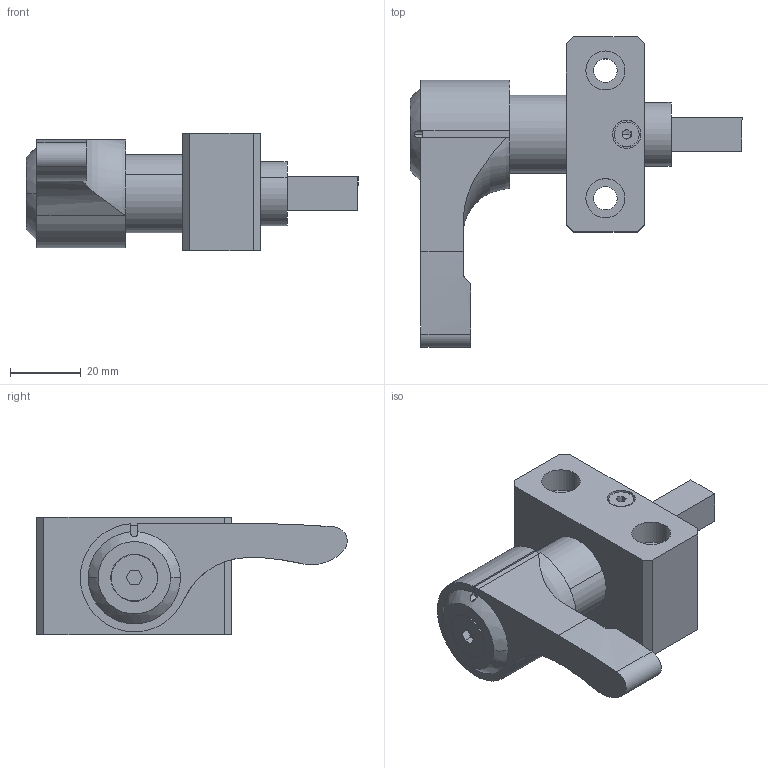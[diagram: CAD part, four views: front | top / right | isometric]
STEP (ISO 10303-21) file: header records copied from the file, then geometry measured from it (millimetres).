
FILE_DESCRIPTION (( 'STEP AP203' ), '1' );
FILE_NAME ('QLPDW85-RC.STEP', '2024-11-08T06:27:50', ( '' ), ( '' ), 'SwSTEP 2.0', 'SolidWorks 2023', '' );
FILE_SCHEMA (( 'CONFIG_CONTROL_DESIGN' ));
Length unit declared in the file: millimetre
Products named in the file (3): QLPDW85-RC_01; QLPDW85-RC_02; QLPDW85-RC
Assembly tree (2 placements, depth 2):
  QLPDW85-RC
    QLPDW85-RC_01
    QLPDW85-RC_02
Bounding box: 93.57 x 87.5 x 33 mm (x, y, z)
Volume: 72705.5 mm3; surface area: 19801.7 mm2
Topology: 2 solids, 2 shells, 105 faces, 256 edges, 164 vertices
Faces by surface type: plane 57, cylinder 37, cone 8, sphere 2, torus 1
Entity records: 3543 total; most frequent: CARTESIAN_POINT 714, DIRECTION 552, ORIENTED_EDGE 508, EDGE_CURVE 254, AXIS2_PLACEMENT_3D 204, VERTEX_POINT 164, LINE 144, VECTOR 144
